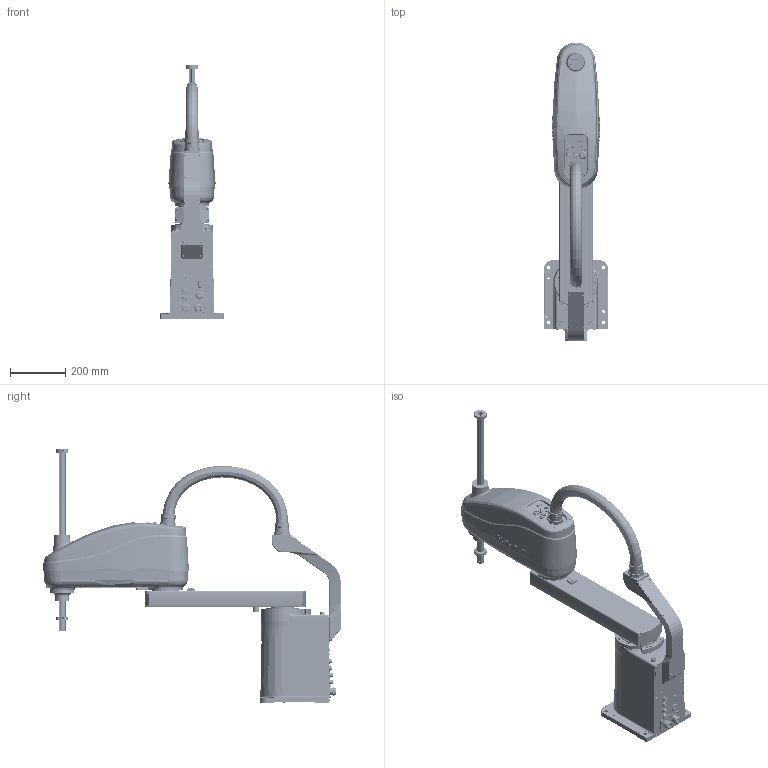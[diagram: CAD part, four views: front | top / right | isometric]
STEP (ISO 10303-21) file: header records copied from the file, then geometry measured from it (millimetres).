
FILE_DESCRIPTION (( 'STEP AP214' ), '1' );
FILE_NAME ('CRP-RS08-10Z30 ×°ÅäÌå1.STEP', '2023-07-03T03:26:12', ( '' ), ( '' ), 'SwSTEP 2.0', 'SolidWorks 2016', '' );
FILE_SCHEMA (( 'AUTOMOTIVE_DESIGN' ));
Length unit declared in the file: millimetre
Products named in the file (7): RS0810-02 J2; 萇擢^Harness_1-CRP-RS08-10Z30 蚾饜极1; Harness_1-CRP-RS08-10Z30 蚾饜极1; RS0810-03 J3; RS0810-01 J1; RS0810-04 J4; CRP-RS08-10Z30 蚾饜极1
Assembly tree (6 placements, depth 3):
  CRP-RS08-10Z30 蚾饜极1
    RS0810-01 J1
    RS0810-02 J2
    RS0810-03 J3
    RS0810-04 J4
    Harness_1-CRP-RS08-10Z30 蚾饜极1
      萇擢^Harness_1-CRP-RS08-10Z30 蚾饜极1
Bounding box: 230 x 1084.91 x 920.17 mm (x, y, z)
Volume: 34150177.4 mm3; surface area: 1504065.3 mm2
Topology: 6 solids, 126 shells, 6012 faces, 14874 edges, 9238 vertices
Faces by surface type: plane 2588, cylinder 1692, cone 782, bspline 679, torus 251, sphere 20
Entity records: 254553 total; most frequent: CARTESIAN_POINT 94422, ORIENTED_EDGE 29184, DIRECTION 28767, EDGE_CURVE 14592, AXIS2_PLACEMENT_3D 11106, VERTEX_POINT 9214, EDGE_LOOP 6800, LINE 6555
